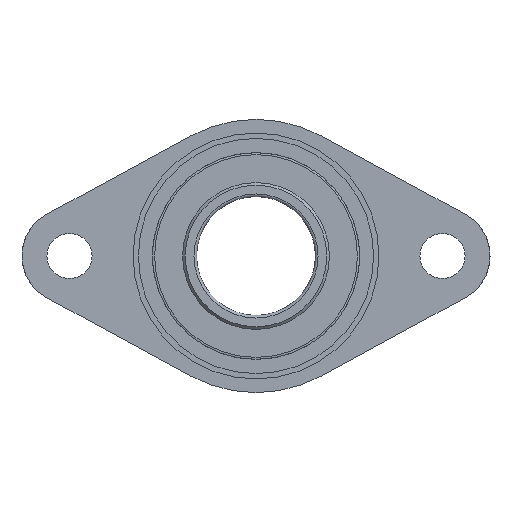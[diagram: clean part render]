
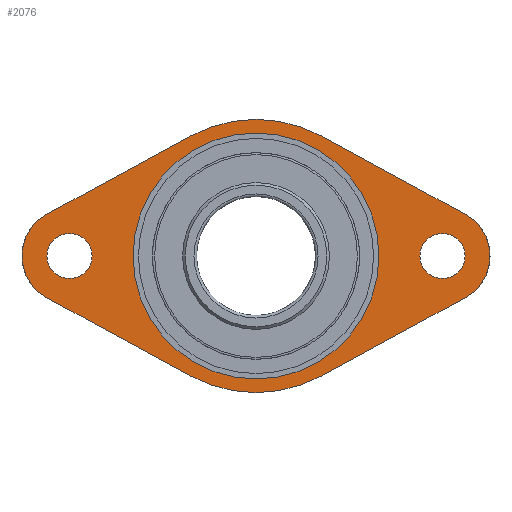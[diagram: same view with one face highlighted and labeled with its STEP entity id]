
A CAD part, left-side view. The second image highlights one B-rep face of the part: STEP entity #2076.
In plain terms, the highlighted planar face has unit normal (-1, 0, 0).
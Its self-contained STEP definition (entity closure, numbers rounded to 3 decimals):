
#36 = EDGE_CURVE ( 'E382', #150, #2192, #2843, .T. ) ;
#66 = ORIENTED_EDGE ( 'NONE', *, *, #36, .F. ) ;
#91 = ORIENTED_EDGE ( 'NONE', *, *, #1975, .T. ) ;
#113 = ORIENTED_EDGE ( 'NONE', *, *, #1602, .T. ) ;
#150 = VERTEX_POINT ( 'NONE', #829 ) ;
#163 = ORIENTED_EDGE ( 'NONE', *, *, #1764, .T. ) ;
#168 = VERTEX_POINT ( 'NONE', #838 ) ;
#181 = EDGE_LOOP ( 'NONE', ( #223 ) ) ;
#183 = VERTEX_POINT ( 'NONE', #863 ) ;
#190 = ORIENTED_EDGE ( 'NONE', *, *, #1616, .F. ) ;
#223 = ORIENTED_EDGE ( 'NONE', *, *, #1018, .T. ) ;
#263 = CARTESIAN_POINT ( 'NONE',  ( -22., 78.5, -9.5 ) ) ;
#264 = CARTESIAN_POINT ( 'NONE',  ( -22., 0., -51.75 ) ) ;
#282 = CARTESIAN_POINT ( 'NONE',  ( -22., -78.5, -9.5 ) ) ;
#301 = VERTEX_POINT ( 'NONE', #929 ) ;
#356 = VERTEX_POINT ( 'NONE', #948 ) ;
#380 = ORIENTED_EDGE ( 'NONE', *, *, #2310, .F. ) ;
#381 = DIRECTION ( 'NONE',  ( 1., 0., 0. ) ) ;
#384 = VERTEX_POINT ( 'NONE', #1189 ) ;
#400 = DIRECTION ( 'NONE',  ( 0., 0., -1. ) ) ;
#433 = CARTESIAN_POINT ( 'NONE',  ( -22., -78.5, 0. ) ) ;
#508 = EDGE_LOOP ( 'NONE', ( #163 ) ) ;
#625 = VERTEX_POINT ( 'NONE', #263 ) ;
#628 = VERTEX_POINT ( 'NONE', #264 ) ;
#652 = EDGE_CURVE ( 'E193', #2192, #301, #2706, .T. ) ;
#674 = VERTEX_POINT ( 'NONE', #282 ) ;
#707 = CARTESIAN_POINT ( 'NONE',  ( -22., 78.5, 0. ) ) ;
#724 = DIRECTION ( 'NONE',  ( 1., 0., 0. ) ) ;
#736 = DIRECTION ( 'NONE',  ( 0., 0., -1. ) ) ;
#743 = CARTESIAN_POINT ( 'NONE',  ( -22., 88.054, -17.57 ) ) ;
#829 = CARTESIAN_POINT ( 'NONE',  ( -22., 88.054, -17.57 ) ) ;
#838 = CARTESIAN_POINT ( 'NONE',  ( -22., -88.054, -17.57 ) ) ;
#863 = CARTESIAN_POINT ( 'NONE',  ( -22., 27.468, -50.515 ) ) ;
#888 = ORIENTED_EDGE ( 'NONE', *, *, #1225, .T. ) ;
#892 = DIRECTION ( 'NONE',  ( 0., -0.879, -0.478 ) ) ;
#913 = DIRECTION ( 'NONE',  ( 0., 0.879, -0.478 ) ) ;
#929 = CARTESIAN_POINT ( 'NONE',  ( -22., 27.468, 50.515 ) ) ;
#948 = CARTESIAN_POINT ( 'NONE',  ( -22., -27.468, 50.515 ) ) ;
#952 = CARTESIAN_POINT ( 'NONE',  ( -22., -88.054, -17.57 ) ) ;
#1018 = EDGE_CURVE ( 'NONE', #674, #674, #2652, .T. ) ;
#1046 = EDGE_LOOP ( 'NONE', ( #91 ) ) ;
#1135 = CARTESIAN_POINT ( 'NONE',  ( -22., 88.054, 17.57 ) ) ;
#1189 = CARTESIAN_POINT ( 'NONE',  ( -22., -88.054, 17.57 ) ) ;
#1225 = EDGE_CURVE ( 'E240', #384, #356, #2617, .T. ) ;
#1243 = EDGE_LOOP ( 'NONE', ( #190, #1360, #888, #2892, #2861, #66, #113, #380 ) ) ;
#1273 = VERTEX_POINT ( 'NONE', #2830 ) ;
#1360 = ORIENTED_EDGE ( 'NONE', *, *, #2298, .F. ) ;
#1386 = AXIS2_PLACEMENT_3D ( 'NONE', #2321, #2320, #2317 ) ;
#1455 = AXIS2_PLACEMENT_3D ( 'NONE', #433, #381, #400 ) ;
#1478 = AXIS2_PLACEMENT_3D ( 'NONE', #2914, #2909, #2906 ) ;
#1520 = DIRECTION ( 'NONE',  ( 0., 0., -1. ) ) ;
#1560 = CIRCLE ( 'NONE', #1386, 57.5 ) ;
#1570 = AXIS2_PLACEMENT_3D ( 'NONE', #2230, #2327, #1520 ) ;
#1584 = DIRECTION ( 'NONE',  ( 0., -0.879, 0.478 ) ) ;
#1600 = AXIS2_PLACEMENT_3D ( 'NONE', #1959, #2253, #2277 ) ;
#1602 = EDGE_CURVE ( 'E376', #150, #183, #2380, .T. ) ;
#1616 = EDGE_CURVE ( 'E329', #168, #1273, #2330, .T. ) ;
#1653 = CIRCLE ( 'NONE', #1455, 20. ) ;
#1695 = AXIS2_PLACEMENT_3D ( 'NONE', #2324, #2331, #2370 ) ;
#1713 = CIRCLE ( 'NONE', #1478, 57.5 ) ;
#1764 = EDGE_CURVE ( 'NONE', #628, #628, #2057, .T. ) ;
#1798 = FACE_BOUND ( 'NONE', #1046, .T. ) ;
#1821 = FACE_BOUND ( 'NONE', #508, .T. ) ;
#1826 = FACE_OUTER_BOUND ( 'NONE', #1243, .T. ) ;
#1833 = FACE_BOUND ( 'NONE', #181, .T. ) ;
#1879 = CIRCLE ( 'NONE', #1600, 9.5 ) ;
#1959 = CARTESIAN_POINT ( 'NONE',  ( -22., 78.5, 0. ) ) ;
#1975 = EDGE_CURVE ( 'NONE', #625, #625, #1879, .T. ) ;
#2057 = CIRCLE ( 'NONE', #1695, 51.75 ) ;
#2076 = ADVANCED_FACE ( 'E454', ( #1821, #1833, #1798, #1826 ), #2473, .F. ) ;
#2138 = AXIS2_PLACEMENT_3D ( 'NONE', #2318, #2319, #2322 ) ;
#2184 = CARTESIAN_POINT ( 'NONE',  ( -22., 88.054, 17.57 ) ) ;
#2192 = VERTEX_POINT ( 'NONE', #1135 ) ;
#2230 = CARTESIAN_POINT ( 'NONE',  ( -22., 0., 0. ) ) ;
#2253 = DIRECTION ( 'NONE',  ( 1., 0., 0. ) ) ;
#2277 = DIRECTION ( 'NONE',  ( 0., 0., -1. ) ) ;
#2298 = EDGE_CURVE ( 'E246', #384, #168, #1653, .T. ) ;
#2304 = AXIS2_PLACEMENT_3D ( 'NONE', #707, #724, #736 ) ;
#2310 = EDGE_CURVE ( 'E350', #1273, #183, #1713, .T. ) ;
#2317 = DIRECTION ( 'NONE',  ( 0., 0., -1. ) ) ;
#2318 = CARTESIAN_POINT ( 'NONE',  ( -22., -78.5, 0. ) ) ;
#2319 = DIRECTION ( 'NONE',  ( 1., 0., 0. ) ) ;
#2320 = DIRECTION ( 'NONE',  ( 1., 0., 0. ) ) ;
#2321 = CARTESIAN_POINT ( 'NONE',  ( -22., 0., 0. ) ) ;
#2322 = DIRECTION ( 'NONE',  ( 0., 0., -1. ) ) ;
#2324 = CARTESIAN_POINT ( 'NONE',  ( -22., 0., 0. ) ) ;
#2327 = DIRECTION ( 'NONE',  ( 1., 0., 0. ) ) ;
#2330 = LINE ( 'NONE', #952, #2332 ) ;
#2331 = DIRECTION ( 'NONE',  ( 1., 0., 0. ) ) ;
#2332 = VECTOR ( 'NONE', #913, 1000. ) ;
#2355 = VECTOR ( 'NONE', #892, 1000. ) ;
#2370 = DIRECTION ( 'NONE',  ( 0., 0., -1. ) ) ;
#2380 = LINE ( 'NONE', #743, #2355 ) ;
#2383 = EDGE_CURVE ( 'E214', #301, #356, #1560, .T. ) ;
#2473 = PLANE ( 'NONE',  #1570 ) ;
#2608 = VECTOR ( 'NONE', #2660, 1000. ) ;
#2617 = LINE ( 'NONE', #2715, #2608 ) ;
#2652 = CIRCLE ( 'NONE', #2138, 9.5 ) ;
#2660 = DIRECTION ( 'NONE',  ( 0., 0.879, 0.478 ) ) ;
#2695 = VECTOR ( 'NONE', #1584, 1000. ) ;
#2706 = LINE ( 'NONE', #2184, #2695 ) ;
#2715 = CARTESIAN_POINT ( 'NONE',  ( -22., -88.054, 17.57 ) ) ;
#2830 = CARTESIAN_POINT ( 'NONE',  ( -22., -27.468, -50.515 ) ) ;
#2843 = CIRCLE ( 'NONE', #2304, 20. ) ;
#2861 = ORIENTED_EDGE ( 'NONE', *, *, #652, .F. ) ;
#2892 = ORIENTED_EDGE ( 'NONE', *, *, #2383, .F. ) ;
#2906 = DIRECTION ( 'NONE',  ( 0., 0., -1. ) ) ;
#2909 = DIRECTION ( 'NONE',  ( 1., 0., 0. ) ) ;
#2914 = CARTESIAN_POINT ( 'NONE',  ( -22., 0., 0. ) ) ;
